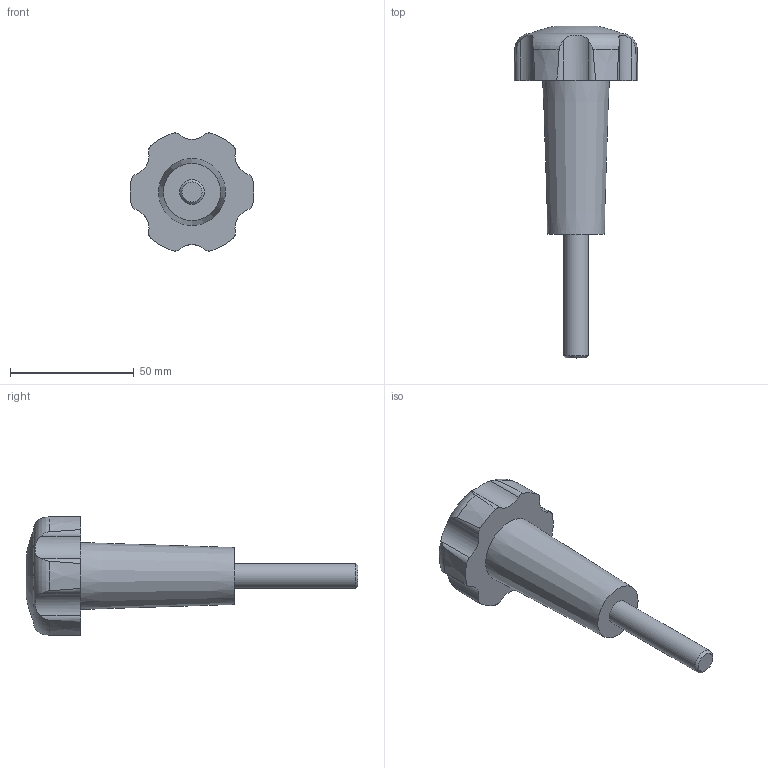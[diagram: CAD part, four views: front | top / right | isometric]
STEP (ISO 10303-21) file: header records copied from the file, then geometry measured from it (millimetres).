
FILE_DESCRIPTION( ( 'STEP AP203' ), '1' );
FILE_NAME( 'C:/Temp/Ganter_Step_05_03_2020/data/2_2/gn_5332/gn_5332_ms/Star knob with threaded bolt GN 5332-50-M10-50.stp', '2020-03-05T12:04:59', ( 'License CC BY-ND 4.0' ), ( 'CADENAS' ), ' ', 'PARTsolutions', ' ' );
FILE_SCHEMA( ( 'CONFIG_CONTROL_DESIGN' ) );
Length unit declared in the file: millimetre
Products named in the file (1): _Star knob with threaded bolt GN 5332-50-M10-50
Bounding box: 49.89 x 134 x 47.66 mm (x, y, z)
Volume: 68828.7 mm3; surface area: 12564.6 mm2
Topology: 1 solids, 1 shells, 34 faces, 86 edges, 57 vertices
Faces by surface type: cylinder 19, cone 8, plane 5, bspline 1, torus 1
Full cylindrical faces by diameter (mm): 10 x1
Entity records: 1519 total; most frequent: CARTESIAN_POINT 704, ORIENTED_EDGE 160, DIRECTION 156, EDGE_CURVE 80, AXIS2_PLACEMENT_3D 72, VERTEX_POINT 56, EDGE_LOOP 42, CIRCLE 38
